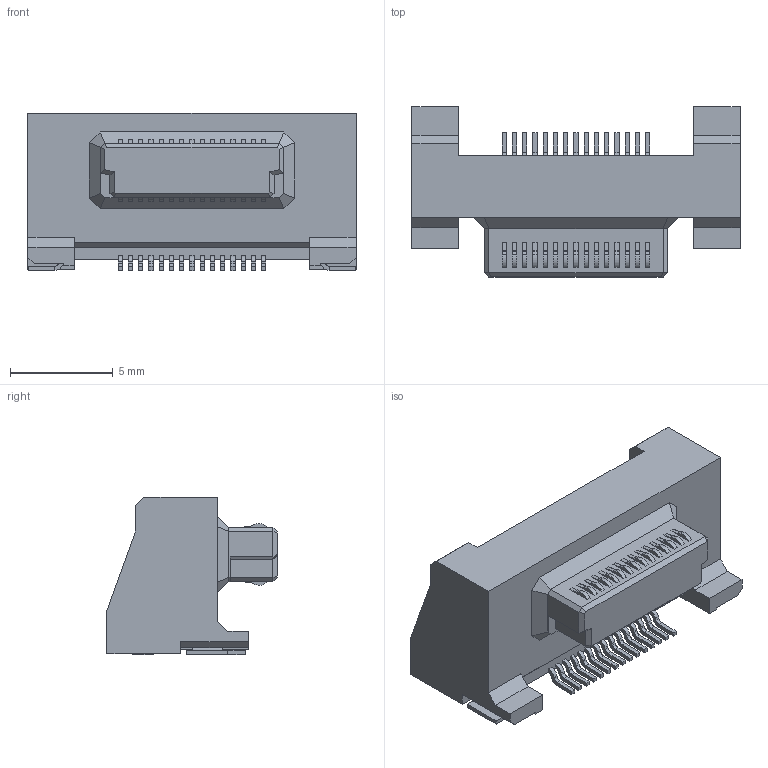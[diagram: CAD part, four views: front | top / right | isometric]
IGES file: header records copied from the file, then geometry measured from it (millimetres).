
Start section: Elysium IGES Interface
Global section: file name: C:\Users\1354\Desktop\DY10-030L.igs; native system: Creo Elements/Direct Modeling 19.0F  14-Feb-2017; preprocessor: Creo Element/Direct IGES_3D V2.2; author: Unknown; organization: Unknown; date: 20171130.160818; units: millimetre
Bounding box: 16 x 8.3 x 7.7 mm (x, y, z)
Volume: 475 mm3; surface area: 592.2 mm2
Topology: 1 solids, 1 shells, 562 faces, 1523 edges, 996 vertices
Faces by surface type: bspline 562
